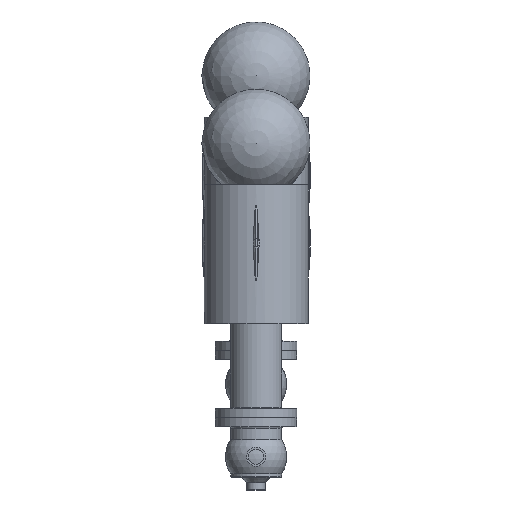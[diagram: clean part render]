
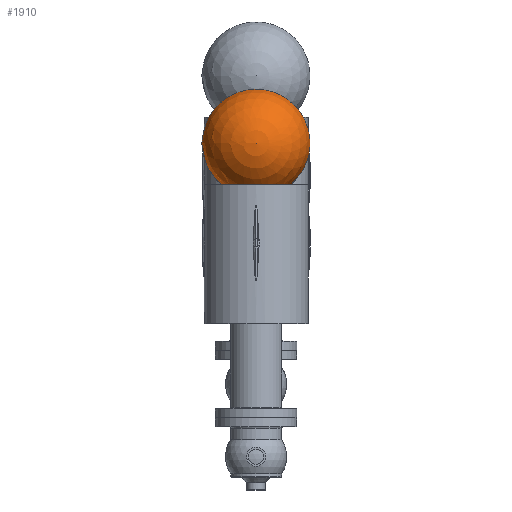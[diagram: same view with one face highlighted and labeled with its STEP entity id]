
A CAD part, front view. The second image highlights one B-rep face of the part: STEP entity #1910.
In plain terms, the highlighted spherical face has radius 72.5 mm.
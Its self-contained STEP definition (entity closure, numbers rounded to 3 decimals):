
#235=SPHERICAL_SURFACE('',#2298,72.5);
#262=FACE_BOUND('',#525,.T.);
#390=FACE_OUTER_BOUND('',#524,.T.);
#524=EDGE_LOOP('',(#1650,#1651));
#525=EDGE_LOOP('',(#1652));
#761=CIRCLE('',#2299,72.5);
#762=CIRCLE('',#2300,46.648);
#954=VERTEX_POINT('',#3809);
#955=VERTEX_POINT('',#3810);
#956=VERTEX_POINT('',#3812);
#1198=EDGE_CURVE('',#954,#955,#761,.T.);
#1199=EDGE_CURVE('',#956,#956,#762,.T.);
#1650=ORIENTED_EDGE('',*,*,#1198,.T.);
#1651=ORIENTED_EDGE('',*,*,#1198,.F.);
#1652=ORIENTED_EDGE('',*,*,#1199,.F.);
#1910=ADVANCED_FACE('',(#390,#262),#235,.T.);
#2298=AXIS2_PLACEMENT_3D('',#3808,#2859,#2860);
#2299=AXIS2_PLACEMENT_3D('',#3811,#2861,#2862);
#2300=AXIS2_PLACEMENT_3D('',#3813,#2863,#2864);
#2859=DIRECTION('center_axis',(0.,0.,1.));
#2860=DIRECTION('ref_axis',(1.,0.,0.));
#2861=DIRECTION('center_axis',(0.,-1.,0.));
#2862=DIRECTION('ref_axis',(-1.,0.,0.));
#2863=DIRECTION('center_axis',(0.,-1.,0.));
#2864=DIRECTION('ref_axis',(1.,0.,0.));
#3808=CARTESIAN_POINT('Origin',(150.,266.5,0.));
#3809=CARTESIAN_POINT('',(150.,266.5,72.5));
#3810=CARTESIAN_POINT('',(150.,266.5,-72.5));
#3811=CARTESIAN_POINT('Origin',(150.,266.5,0.));
#3812=CARTESIAN_POINT('',(196.648,211.,0.));
#3813=CARTESIAN_POINT('Origin',(150.,211.,0.));
